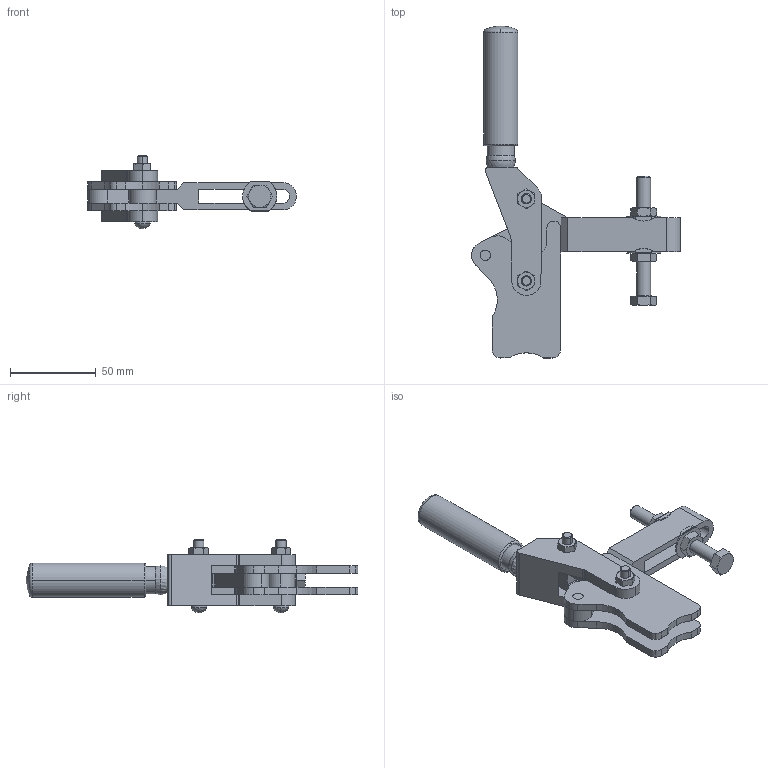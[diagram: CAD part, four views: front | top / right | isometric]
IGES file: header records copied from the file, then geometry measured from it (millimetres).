
Start section:  Level              Description ========  ================================        1  SANDFIELD
Global section: file name: D:/WORK/SANDFIELD/sandfield_3d/Vertical_Action/HEAVY_DUTY/M18/M18U.IGS; native system: AutoCAD-13_c4a_Mh (HwLock) (Microsoft Windows NT Version 4.0 (x86)); preprocessor: AutoCAD IGES Translator R13.1c2 (Jan 23 1997) from Autodesk, Inc.; author: ProCAD; organization: Sandfield Eng Co.; date: 990520.143201; units: millimetre
Bounding box: 122 x 194 x 43 mm (x, y, z)
Volume: 123900.6 mm3; surface area: 54639.6 mm2
Topology: 19 solids, 19 shells, 344 faces, 845 edges, 539 vertices
Faces by surface type: plane 116, cylinder 112, bspline 90, cone 14, sphere 8, torus 4
